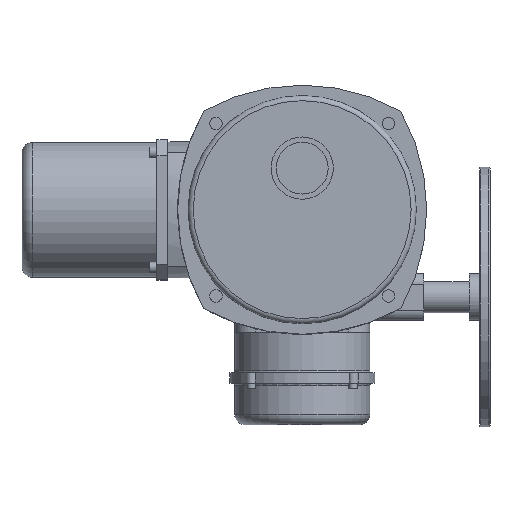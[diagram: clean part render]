
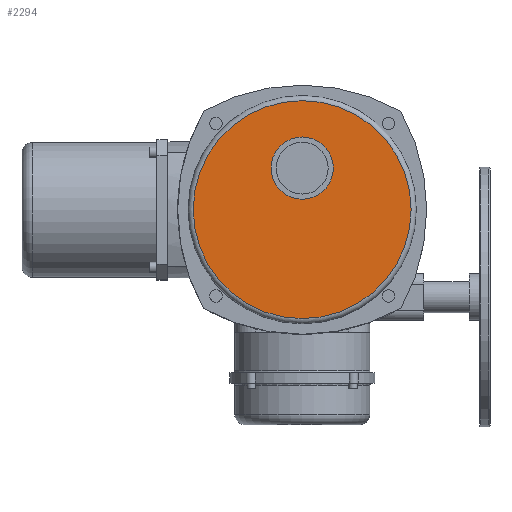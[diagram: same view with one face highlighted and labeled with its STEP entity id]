
A CAD part, top view. The second image highlights one B-rep face of the part: STEP entity #2294.
In plain terms, the highlighted planar face has unit normal (0, 0, 1).
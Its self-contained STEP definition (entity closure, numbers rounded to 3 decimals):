
#2294=ADVANCED_FACE('',(#4285,#4287),#4289,.T.);
#4285=FACE_BOUND('',#4286,.T.);
#4286=EDGE_LOOP('',(#5378));
#4287=FACE_BOUND('',#4288,.T.);
#4288=EDGE_LOOP('',(#5379));
#4289=PLANE('',#4290);
#4290=AXIS2_PLACEMENT_3D('',#4291,#4292,#4293);
#4291=CARTESIAN_POINT('',(0.,0.,83.));
#4292=DIRECTION('',(0.,0.,1.));
#4293=DIRECTION('',(1.,0.,0.));
#5378=ORIENTED_EDGE('',*,*,#5888,.T.);
#5379=ORIENTED_EDGE('',*,*,#5939,.F.);
#5888=EDGE_CURVE('',#6749,#6749,#6750,.T.);
#5939=EDGE_CURVE('',#6827,#6827,#6828,.T.);
#6749=VERTEX_POINT('',#10279);
#6750=CIRCLE('',#10280,105.);
#6827=VERTEX_POINT('',#10504);
#6828=CIRCLE('',#10505,30.);
#10279=CARTESIAN_POINT('',(105.,0.,83.));
#10280=AXIS2_PLACEMENT_3D('',#10281,#10282,#10283);
#10281=CARTESIAN_POINT('',(0.,0.,83.));
#10282=DIRECTION('',(0.,0.,1.));
#10283=DIRECTION('',(1.,0.,0.));
#10504=CARTESIAN_POINT('',(30.,40.,83.));
#10505=AXIS2_PLACEMENT_3D('',#10506,#10507,#10508);
#10506=CARTESIAN_POINT('',(0.,40.,83.));
#10507=DIRECTION('',(0.,0.,1.));
#10508=DIRECTION('',(1.,0.,0.));
